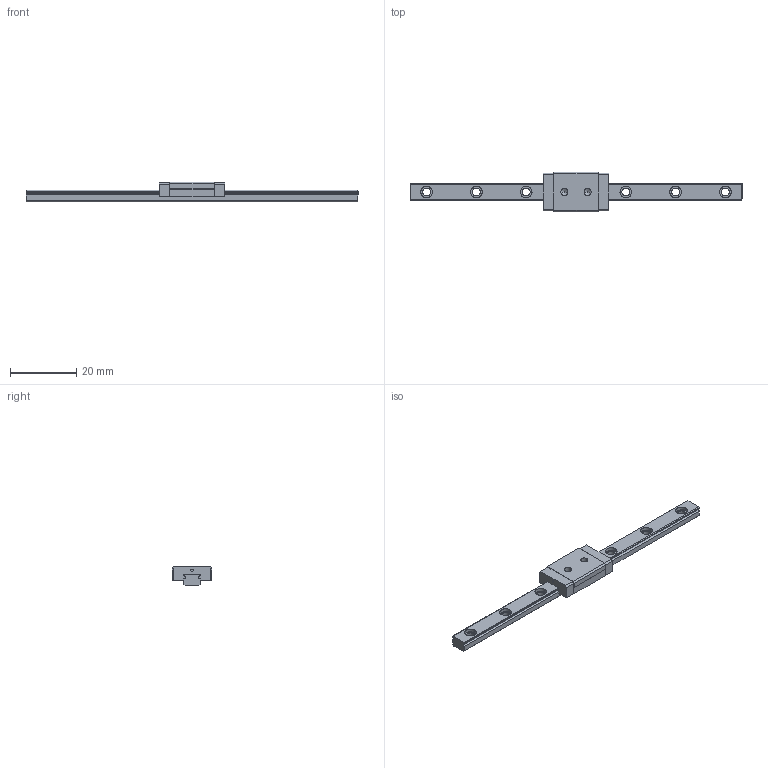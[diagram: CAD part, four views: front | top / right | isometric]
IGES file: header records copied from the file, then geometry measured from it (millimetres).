
Global section: file name: No Iges File Name specified; native system: AutoDesk Inventor R11.0; preprocessor: AutoDesk Inventor Iges Exporter R11.0; author: No Author specified; organization: No Organization specified; date: 20150221.131118; units: millimetre
Bounding box: 100 x 12 x 6 mm (x, y, z)
Surface area: 2790.3 mm2 (no closed solid volume)
Topology: 0 solids, 0 shells, 105 faces, 720 edges, 720 vertices
Faces by surface type: bspline 105
